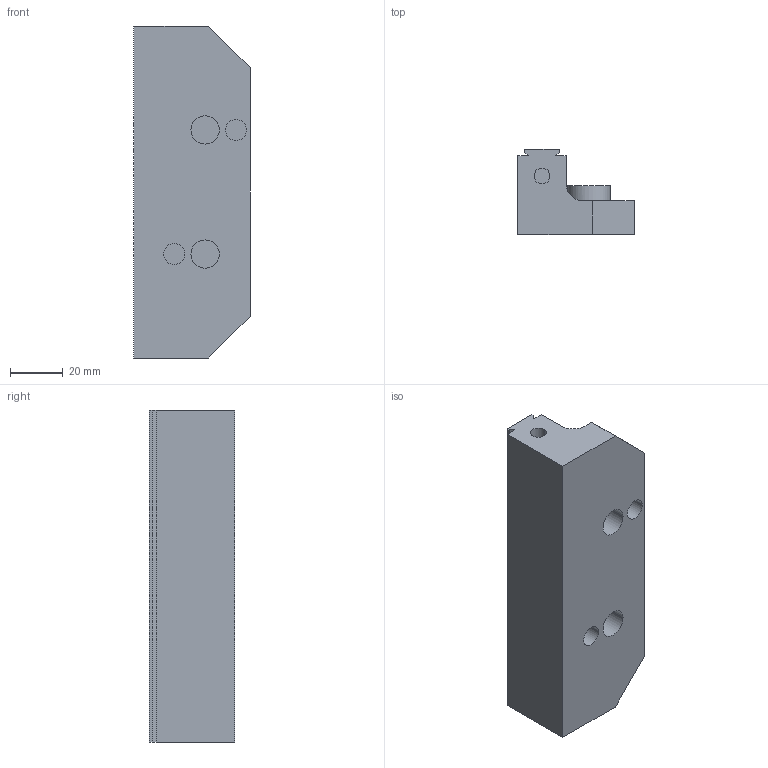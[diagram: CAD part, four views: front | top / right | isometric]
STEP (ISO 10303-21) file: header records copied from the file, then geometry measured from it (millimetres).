
FILE_DESCRIPTION (( 'STEP AP214' ), '1' );
FILE_NAME ('D_V562M-5.STEP', '2020-03-13T22:38:07', ( '' ), ( '' ), 'SwSTEP 2.0', 'SolidWorks 2018', '' );
FILE_SCHEMA (( 'AUTOMOTIVE_DESIGN' ));
Length unit declared in the file: millimetre
Products named in the file (1): D_V562M-5
Bounding box: 44.07 x 32.26 x 125.73 mm (x, y, z)
Volume: 110529.3 mm3; surface area: 23225.7 mm2
Topology: 1 solids, 1 shells, 49 faces, 125 edges, 82 vertices
Faces by surface type: plane 28, cylinder 21
Entity records: 1797 total; most frequent: CARTESIAN_POINT 355, DIRECTION 267, ORIENTED_EDGE 250, EDGE_CURVE 125, AXIS2_PLACEMENT_3D 100, VERTEX_POINT 82, VECTOR 67, LINE 67
